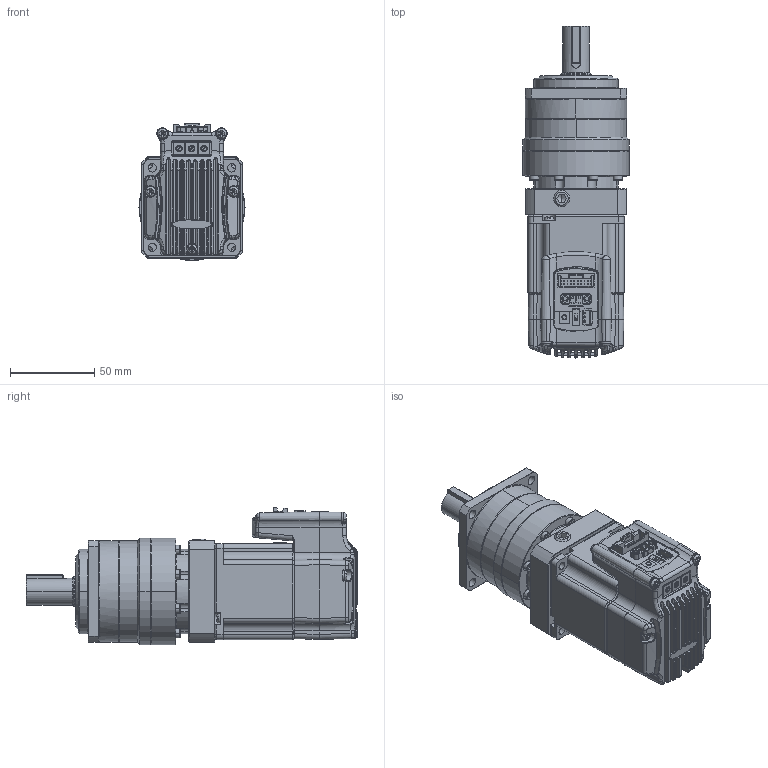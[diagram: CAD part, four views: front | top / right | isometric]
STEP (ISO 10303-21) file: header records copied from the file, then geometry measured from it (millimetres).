
FILE_DESCRIPTION (( 'STEP AP203' ), '1' );
FILE_NAME ('130416 Ezi-SERVO PG-ALL-56S-PN15~50.STEP', '2013-04-17T01:30:24', ( '' ), ( '' ), 'SwSTEP 2.0', 'SolidWorks 2012', '' );
FILE_SCHEMA (( 'CONFIG_CONTROL_DESIGN' ));
Length unit declared in the file: metre
Products named in the file (40): 130416 Ezi-SERVO PG-ALL-56S-PN15~50; ST56 1ST; M3 TAPPING SCREW.2_7; M3 TAPPING SCREW.1_7; M3 MACHIN SCREW.3_2; M3 MACHIN SCREW.2_2; M3 MACHIN SCREW.1_2; CASE RR-TYPE A_4; CASE FRT_6; NAME PLATE_6; CONNECTOR PCB_6; DISPLAY PCB_6; POWER PARTS.7_6; POWER PARTS.6_6; POWER PARTS.5_6; POWER PARTS.4_6; POWER PARTS.3_6; POWER PARTS.2_6; POWER PARTS.1_6; MAIN PCB.2_6; MAIN PCB.1_6; _X2_D30CD2B8_X0_80_6; _X2_D30CD2B8_X0_79_6; _X2_D30CD2B8_X0_78_6; _X2_D30CD2B8_X0_75_7_2; _X2_D30CD2B8_X0_75_7; _X2_D30CD2B8_X0_73_7_2; _X2_D30CD2B8_X0_73_7; _X2_D30CD2B8_X0_69_6; MSBR_6; UPPER COVER_6; TRM_SRF_6; _X2_D30CD2B8_X0_115_2; _X2_D30CD2B8_X0_96_8_3; _X2_D30CD2B8_X0_94_8_3; _X2_D30CD2B8_X0_96_8_2; _X2_D30CD2B8_X0_94_8_2; _X2_D30CD2B8_X0_96_8; _X2_D30CD2B8_X0_94_8; F199
Assembly tree (39 placements, depth 2):
  130416 Ezi-SERVO PG-ALL-56S-PN15~50
    F199
    _X2_D30CD2B8_X0_94_8
    _X2_D30CD2B8_X0_96_8
    _X2_D30CD2B8_X0_94_8_2
    _X2_D30CD2B8_X0_96_8_2
    _X2_D30CD2B8_X0_94_8_3
    _X2_D30CD2B8_X0_96_8_3
    _X2_D30CD2B8_X0_115_2
    TRM_SRF_6
    UPPER COVER_6
    MSBR_6
    _X2_D30CD2B8_X0_69_6
    _X2_D30CD2B8_X0_73_7
    _X2_D30CD2B8_X0_73_7_2
    _X2_D30CD2B8_X0_75_7
    _X2_D30CD2B8_X0_75_7_2
    _X2_D30CD2B8_X0_78_6
    _X2_D30CD2B8_X0_79_6
    _X2_D30CD2B8_X0_80_6
    MAIN PCB.1_6
    MAIN PCB.2_6
    POWER PARTS.1_6
    POWER PARTS.2_6
    POWER PARTS.3_6
    POWER PARTS.4_6
    POWER PARTS.5_6
    POWER PARTS.6_6
    POWER PARTS.7_6
    DISPLAY PCB_6
    CONNECTOR PCB_6
    NAME PLATE_6
    CASE FRT_6
    CASE RR-TYPE A_4
    M3 MACHIN SCREW.1_2
    M3 MACHIN SCREW.2_2
    M3 MACHIN SCREW.3_2
    M3 TAPPING SCREW.1_7
    M3 TAPPING SCREW.2_7
    ST56 1ST
Bounding box: 63 x 197 x 81.43 mm (x, y, z)
Volume: 429682 mm3; surface area: 116425.5 mm2
Topology: 37 solids, 39 shells, 3312 faces, 8314 edges, 5113 vertices
Faces by surface type: plane 1543, cylinder 1014, bspline 532, cone 169, torus 54
Entity records: 150826 total; most frequent: CARTESIAN_POINT 74455, ORIENTED_EDGE 16382, DIRECTION 12507, EDGE_CURVE 8215, VERTEX_POINT 5113, AXIS2_PLACEMENT_3D 4177, LINE 4153, VECTOR 4153
